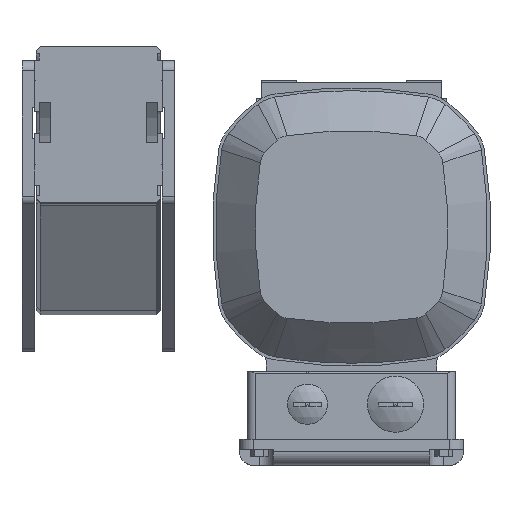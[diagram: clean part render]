
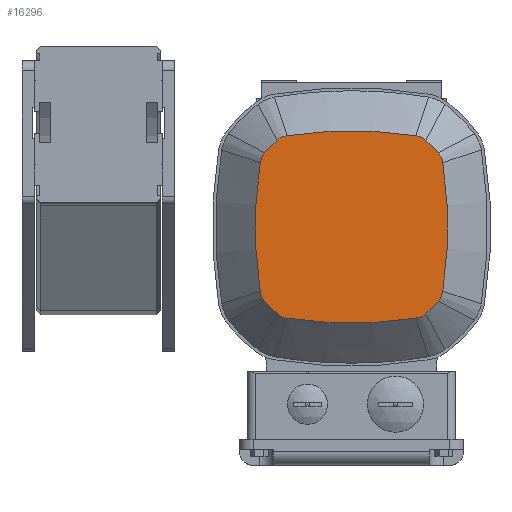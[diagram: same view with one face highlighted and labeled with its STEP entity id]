
A CAD part, left-side view. The second image highlights one B-rep face of the part: STEP entity #16296.
In plain terms, the highlighted planar face has unit normal (-1, 0, 0).
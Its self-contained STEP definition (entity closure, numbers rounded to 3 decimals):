
#16129=CARTESIAN_POINT('',(-327.5,-111.209,-154.906));
#16130=DIRECTION('',(-1.0,0.0,0.0));
#16131=DIRECTION('',(0.0,0.0,1.0));
#16132=AXIS2_PLACEMENT_3D('',#16129,#16130,#16131);
#16133=PLANE('',#16132);
#16134=CARTESIAN_POINT('',(-327.5,-158.586,-44.425));
#16135=VERTEX_POINT('',#16134);
#16136=CARTESIAN_POINT('',(-327.5,-94.414,-44.425));
#16137=VERTEX_POINT('',#16136);
#16138=CARTESIAN_POINT('',(-327.5,-126.5,-255.5));
#16139=DIRECTION('',(-1.0,0.0,0.0));
#16140=DIRECTION('',(0.0,0.0,1.0));
#16141=AXIS2_PLACEMENT_3D('',#16138,#16139,#16140);
#16142=CIRCLE('',#16141,213.5);
#16143=EDGE_CURVE('',#16135,#16137,#16142,.T.);
#16144=ORIENTED_EDGE('',*,*,#16143,.T.);
#16145=CARTESIAN_POINT('',(-327.5,-89.41,-46.718));
#16146=VERTEX_POINT('',#16145);
#16147=CARTESIAN_POINT('',(-327.5,-94.414,-44.425));
#16148=CARTESIAN_POINT('',(-327.5,-93.499,-44.564));
#16149=CARTESIAN_POINT('',(-327.5,-92.594,-44.834));
#16150=CARTESIAN_POINT('',(-327.5,-90.909,-45.606));
#16151=CARTESIAN_POINT('',(-327.5,-90.114,-46.115));
#16152=CARTESIAN_POINT('',(-327.5,-89.41,-46.718));
#16153=B_SPLINE_CURVE_WITH_KNOTS('',3,(#16147,#16148,#16149,#16150,#16151,#16152),.UNSPECIFIED.,.F.,.U.,(4,2,4),(-0.556,-0.278,0.0),.UNSPECIFIED.);
#16154=EDGE_CURVE('',#16137,#16146,#16153,.T.);
#16155=ORIENTED_EDGE('',*,*,#16154,.T.);
#16156=CARTESIAN_POINT('',(-327.5,-83.218,-52.91));
#16157=VERTEX_POINT('',#16156);
#16158=CARTESIAN_POINT('',(-327.5,-126.5,-90.));
#16159=DIRECTION('',(-1.0,0.0,0.0));
#16160=DIRECTION('',(0.0,0.0,1.0));
#16161=AXIS2_PLACEMENT_3D('',#16158,#16159,#16160);
#16162=CIRCLE('',#16161,57.0);
#16163=EDGE_CURVE('',#16146,#16157,#16162,.T.);
#16164=ORIENTED_EDGE('',*,*,#16163,.T.);
#16165=CARTESIAN_POINT('',(-327.5,-80.925,-57.914));
#16166=VERTEX_POINT('',#16165);
#16167=CARTESIAN_POINT('',(-327.5,-83.218,-52.91));
#16168=CARTESIAN_POINT('',(-327.5,-82.615,-53.614));
#16169=CARTESIAN_POINT('',(-327.5,-82.106,-54.409));
#16170=CARTESIAN_POINT('',(-327.5,-81.334,-56.094));
#16171=CARTESIAN_POINT('',(-327.5,-81.064,-56.999));
#16172=CARTESIAN_POINT('',(-327.5,-80.925,-57.914));
#16173=B_SPLINE_CURVE_WITH_KNOTS('',3,(#16167,#16168,#16169,#16170,#16171,#16172),.UNSPECIFIED.,.F.,.U.,(4,2,4),(-0.556,-0.278,0.0),.UNSPECIFIED.);
#16174=EDGE_CURVE('',#16157,#16166,#16173,.T.);
#16175=ORIENTED_EDGE('',*,*,#16174,.T.);
#16176=CARTESIAN_POINT('',(-327.5,-80.925,-122.086));
#16177=VERTEX_POINT('',#16176);
#16178=CARTESIAN_POINT('',(-327.5,-292.0,-90.));
#16179=DIRECTION('',(-1.0,0.0,0.0));
#16180=DIRECTION('',(0.0,0.0,1.0));
#16181=AXIS2_PLACEMENT_3D('',#16178,#16179,#16180);
#16182=CIRCLE('',#16181,213.5);
#16183=EDGE_CURVE('',#16166,#16177,#16182,.T.);
#16184=ORIENTED_EDGE('',*,*,#16183,.T.);
#16185=CARTESIAN_POINT('',(-327.5,-83.218,-127.09));
#16186=VERTEX_POINT('',#16185);
#16187=CARTESIAN_POINT('',(-327.5,-80.925,-122.086));
#16188=CARTESIAN_POINT('',(-327.5,-81.064,-123.001));
#16189=CARTESIAN_POINT('',(-327.5,-81.334,-123.906));
#16190=CARTESIAN_POINT('',(-327.5,-82.106,-125.591));
#16191=CARTESIAN_POINT('',(-327.5,-82.615,-126.386));
#16192=CARTESIAN_POINT('',(-327.5,-83.218,-127.09));
#16193=B_SPLINE_CURVE_WITH_KNOTS('',3,(#16187,#16188,#16189,#16190,#16191,#16192),.UNSPECIFIED.,.F.,.U.,(4,2,4),(-0.556,-0.278,0.0),.UNSPECIFIED.);
#16194=EDGE_CURVE('',#16177,#16186,#16193,.T.);
#16195=ORIENTED_EDGE('',*,*,#16194,.T.);
#16196=CARTESIAN_POINT('',(-327.5,-89.41,-133.282));
#16197=VERTEX_POINT('',#16196);
#16198=CARTESIAN_POINT('',(-327.5,-126.5,-90.));
#16199=DIRECTION('',(-1.0,0.0,0.0));
#16200=DIRECTION('',(0.0,0.0,1.0));
#16201=AXIS2_PLACEMENT_3D('',#16198,#16199,#16200);
#16202=CIRCLE('',#16201,57.0);
#16203=EDGE_CURVE('',#16186,#16197,#16202,.T.);
#16204=ORIENTED_EDGE('',*,*,#16203,.T.);
#16205=CARTESIAN_POINT('',(-327.5,-94.414,-135.575));
#16206=VERTEX_POINT('',#16205);
#16207=CARTESIAN_POINT('',(-327.5,-89.41,-133.282));
#16208=CARTESIAN_POINT('',(-327.5,-90.114,-133.885));
#16209=CARTESIAN_POINT('',(-327.5,-90.909,-134.394));
#16210=CARTESIAN_POINT('',(-327.5,-92.594,-135.166));
#16211=CARTESIAN_POINT('',(-327.5,-93.499,-135.436));
#16212=CARTESIAN_POINT('',(-327.5,-94.414,-135.575));
#16213=B_SPLINE_CURVE_WITH_KNOTS('',3,(#16207,#16208,#16209,#16210,#16211,#16212),.UNSPECIFIED.,.F.,.U.,(4,2,4),(-0.556,-0.278,0.0),.UNSPECIFIED.);
#16214=EDGE_CURVE('',#16197,#16206,#16213,.T.);
#16215=ORIENTED_EDGE('',*,*,#16214,.T.);
#16216=CARTESIAN_POINT('',(-327.5,-158.586,-135.575));
#16217=VERTEX_POINT('',#16216);
#16218=CARTESIAN_POINT('',(-327.5,-126.5,75.5));
#16219=DIRECTION('',(-1.0,0.0,0.0));
#16220=DIRECTION('',(0.0,0.0,1.0));
#16221=AXIS2_PLACEMENT_3D('',#16218,#16219,#16220);
#16222=CIRCLE('',#16221,213.5);
#16223=EDGE_CURVE('',#16206,#16217,#16222,.T.);
#16224=ORIENTED_EDGE('',*,*,#16223,.T.);
#16225=CARTESIAN_POINT('',(-327.5,-163.59,-133.282));
#16226=VERTEX_POINT('',#16225);
#16227=CARTESIAN_POINT('',(-327.5,-158.586,-135.575));
#16228=CARTESIAN_POINT('',(-327.5,-159.501,-135.436));
#16229=CARTESIAN_POINT('',(-327.5,-160.406,-135.166));
#16230=CARTESIAN_POINT('',(-327.5,-162.091,-134.394));
#16231=CARTESIAN_POINT('',(-327.5,-162.886,-133.885));
#16232=CARTESIAN_POINT('',(-327.5,-163.59,-133.282));
#16233=B_SPLINE_CURVE_WITH_KNOTS('',3,(#16227,#16228,#16229,#16230,#16231,#16232),.UNSPECIFIED.,.F.,.U.,(4,2,4),(-0.556,-0.278,0.0),.UNSPECIFIED.);
#16234=EDGE_CURVE('',#16217,#16226,#16233,.T.);
#16235=ORIENTED_EDGE('',*,*,#16234,.T.);
#16236=CARTESIAN_POINT('',(-327.5,-169.782,-127.09));
#16237=VERTEX_POINT('',#16236);
#16238=CARTESIAN_POINT('',(-327.5,-126.5,-90.));
#16239=DIRECTION('',(-1.0,0.0,0.0));
#16240=DIRECTION('',(0.0,0.0,1.0));
#16241=AXIS2_PLACEMENT_3D('',#16238,#16239,#16240);
#16242=CIRCLE('',#16241,57.0);
#16243=EDGE_CURVE('',#16226,#16237,#16242,.T.);
#16244=ORIENTED_EDGE('',*,*,#16243,.T.);
#16245=CARTESIAN_POINT('',(-327.5,-172.075,-122.086));
#16246=VERTEX_POINT('',#16245);
#16247=CARTESIAN_POINT('',(-327.5,-169.782,-127.09));
#16248=CARTESIAN_POINT('',(-327.5,-170.385,-126.386));
#16249=CARTESIAN_POINT('',(-327.5,-170.894,-125.591));
#16250=CARTESIAN_POINT('',(-327.5,-171.666,-123.906));
#16251=CARTESIAN_POINT('',(-327.5,-171.936,-123.001));
#16252=CARTESIAN_POINT('',(-327.5,-172.075,-122.086));
#16253=B_SPLINE_CURVE_WITH_KNOTS('',3,(#16247,#16248,#16249,#16250,#16251,#16252),.UNSPECIFIED.,.F.,.U.,(4,2,4),(-0.556,-0.278,0.0),.UNSPECIFIED.);
#16254=EDGE_CURVE('',#16237,#16246,#16253,.T.);
#16255=ORIENTED_EDGE('',*,*,#16254,.T.);
#16256=CARTESIAN_POINT('',(-327.5,-172.075,-57.914));
#16257=VERTEX_POINT('',#16256);
#16258=CARTESIAN_POINT('',(-327.5,39.,-90.));
#16259=DIRECTION('',(-1.0,0.0,0.0));
#16260=DIRECTION('',(0.0,0.0,1.0));
#16261=AXIS2_PLACEMENT_3D('',#16258,#16259,#16260);
#16262=CIRCLE('',#16261,213.5);
#16263=EDGE_CURVE('',#16246,#16257,#16262,.T.);
#16264=ORIENTED_EDGE('',*,*,#16263,.T.);
#16265=CARTESIAN_POINT('',(-327.5,-169.782,-52.91));
#16266=VERTEX_POINT('',#16265);
#16267=CARTESIAN_POINT('',(-327.5,-172.075,-57.914));
#16268=CARTESIAN_POINT('',(-327.5,-171.936,-56.999));
#16269=CARTESIAN_POINT('',(-327.5,-171.666,-56.094));
#16270=CARTESIAN_POINT('',(-327.5,-170.894,-54.409));
#16271=CARTESIAN_POINT('',(-327.5,-170.385,-53.614));
#16272=CARTESIAN_POINT('',(-327.5,-169.782,-52.91));
#16273=B_SPLINE_CURVE_WITH_KNOTS('',3,(#16267,#16268,#16269,#16270,#16271,#16272),.UNSPECIFIED.,.F.,.U.,(4,2,4),(-0.556,-0.278,0.0),.UNSPECIFIED.);
#16274=EDGE_CURVE('',#16257,#16266,#16273,.T.);
#16275=ORIENTED_EDGE('',*,*,#16274,.T.);
#16276=CARTESIAN_POINT('',(-327.5,-163.59,-46.718));
#16277=VERTEX_POINT('',#16276);
#16278=CARTESIAN_POINT('',(-327.5,-126.5,-90.));
#16279=DIRECTION('',(-1.0,0.0,0.0));
#16280=DIRECTION('',(0.0,0.0,1.0));
#16281=AXIS2_PLACEMENT_3D('',#16278,#16279,#16280);
#16282=CIRCLE('',#16281,57.);
#16283=EDGE_CURVE('',#16266,#16277,#16282,.T.);
#16284=ORIENTED_EDGE('',*,*,#16283,.T.);
#16285=CARTESIAN_POINT('',(-327.5,-163.59,-46.718));
#16286=CARTESIAN_POINT('',(-327.5,-162.886,-46.115));
#16287=CARTESIAN_POINT('',(-327.5,-162.091,-45.606));
#16288=CARTESIAN_POINT('',(-327.5,-160.406,-44.834));
#16289=CARTESIAN_POINT('',(-327.5,-159.501,-44.564));
#16290=CARTESIAN_POINT('',(-327.5,-158.586,-44.425));
#16291=B_SPLINE_CURVE_WITH_KNOTS('',3,(#16285,#16286,#16287,#16288,#16289,#16290),.UNSPECIFIED.,.F.,.U.,(4,2,4),(-0.556,-0.278,0.0),.UNSPECIFIED.);
#16292=EDGE_CURVE('',#16277,#16135,#16291,.T.);
#16293=ORIENTED_EDGE('',*,*,#16292,.T.);
#16294=EDGE_LOOP('',(#16144,#16155,#16164,#16175,#16184,#16195,#16204,#16215,#16224,#16235,#16244,#16255,#16264,#16275,#16284,#16293));
#16295=FACE_OUTER_BOUND('',#16294,.T.);
#16296=ADVANCED_FACE('',(#16295),#16133,.T.);
